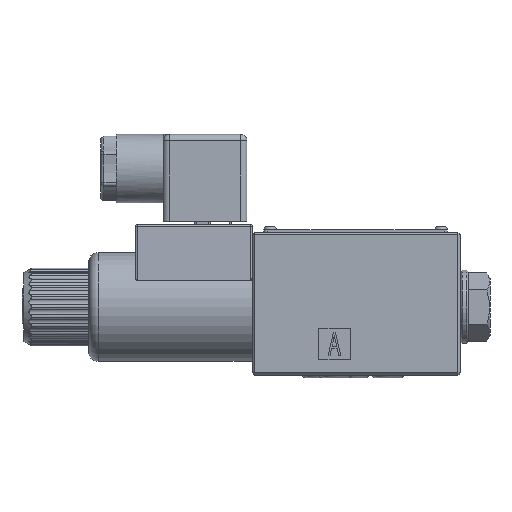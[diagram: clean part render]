
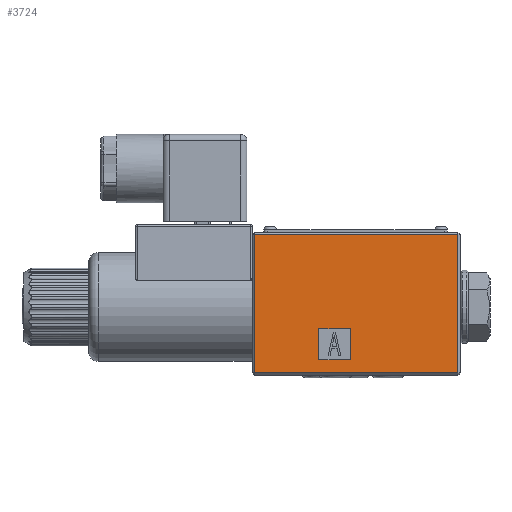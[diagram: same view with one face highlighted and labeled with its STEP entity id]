
A CAD part, front view. The second image highlights one B-rep face of the part: STEP entity #3724.
In plain terms, the highlighted planar face has unit normal (0, -1, 0).
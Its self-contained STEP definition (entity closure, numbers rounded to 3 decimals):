
#934=LINE('',#32446,#1490);
#935=LINE('',#32449,#1491);
#936=LINE('',#32451,#1492);
#937=LINE('',#32453,#1493);
#938=LINE('',#32454,#1494);
#939=LINE('',#32457,#1495);
#940=LINE('',#32459,#1496);
#941=LINE('',#32461,#1497);
#1490=VECTOR('',#12298,1.);
#1491=VECTOR('',#12299,1.);
#1492=VECTOR('',#12300,1.);
#1493=VECTOR('',#12301,1.);
#1494=VECTOR('',#12302,1.);
#1495=VECTOR('',#12303,1.);
#1496=VECTOR('',#12304,1.);
#1497=VECTOR('',#12305,1.);
#3724=ADVANCED_FACE('',(#4372,#4373),#4013,.F.);
#4013=PLANE('',#10320);
#4372=FACE_BOUND('',#4967,.T.);
#4373=FACE_BOUND('',#4968,.T.);
#4967=EDGE_LOOP('',(#6878,#6879,#6880,#6881));
#4968=EDGE_LOOP('',(#6882,#6883,#6884,#6885));
#6878=ORIENTED_EDGE('',*,*,#9061,.T.);
#6879=ORIENTED_EDGE('',*,*,#9062,.T.);
#6880=ORIENTED_EDGE('',*,*,#9063,.T.);
#6881=ORIENTED_EDGE('',*,*,#9064,.T.);
#6882=ORIENTED_EDGE('',*,*,#9065,.F.);
#6883=ORIENTED_EDGE('',*,*,#9066,.F.);
#6884=ORIENTED_EDGE('',*,*,#9067,.F.);
#6885=ORIENTED_EDGE('',*,*,#9068,.F.);
#8027=VERTEX_POINT('',#32447);
#8028=VERTEX_POINT('',#32448);
#8029=VERTEX_POINT('',#32450);
#8030=VERTEX_POINT('',#32452);
#8031=VERTEX_POINT('',#32455);
#8032=VERTEX_POINT('',#32456);
#8033=VERTEX_POINT('',#32458);
#8034=VERTEX_POINT('',#32460);
#9061=EDGE_CURVE('',#8027,#8028,#934,.T.);
#9062=EDGE_CURVE('',#8028,#8029,#935,.T.);
#9063=EDGE_CURVE('',#8029,#8030,#936,.T.);
#9064=EDGE_CURVE('',#8030,#8027,#937,.T.);
#9065=EDGE_CURVE('',#8031,#8032,#938,.T.);
#9066=EDGE_CURVE('',#8033,#8031,#939,.T.);
#9067=EDGE_CURVE('',#8034,#8033,#940,.T.);
#9068=EDGE_CURVE('',#8032,#8034,#941,.T.);
#10320=AXIS2_PLACEMENT_3D('',#32462,#12306,#12307);
#12298=DIRECTION('',(0.,0.,-1.));
#12299=DIRECTION('',(1.,0.,0.));
#12300=DIRECTION('',(0.,0.,1.));
#12301=DIRECTION('',(-1.,0.,0.));
#12302=DIRECTION('',(0.,0.,1.));
#12303=DIRECTION('',(1.,0.,0.));
#12304=DIRECTION('',(0.,0.,-1.));
#12305=DIRECTION('',(-1.,0.,0.));
#12306=DIRECTION('',(0.,1.,0.));
#12307=DIRECTION('',(1.,0.,0.));
#32446=CARTESIAN_POINT('',(-8.995,-25.581,1929.2));
#32447=CARTESIAN_POINT('',(-8.995,-25.581,1928.4));
#32448=CARTESIAN_POINT('',(-8.995,-25.581,1884.));
#32449=CARTESIAN_POINT('',(-9.795,-25.581,1884.));
#32450=CARTESIAN_POINT('',(56.405,-25.581,1884.));
#32451=CARTESIAN_POINT('',(56.405,-25.581,1929.2));
#32452=CARTESIAN_POINT('',(56.405,-25.581,1928.4));
#32453=CARTESIAN_POINT('',(-9.795,-25.581,1928.4));
#32454=CARTESIAN_POINT('',(21.705,-25.581,1888.2));
#32455=CARTESIAN_POINT('',(21.705,-25.581,1888.2));
#32456=CARTESIAN_POINT('',(21.705,-25.581,1898.2));
#32457=CARTESIAN_POINT('',(11.705,-25.581,1888.2));
#32458=CARTESIAN_POINT('',(11.705,-25.581,1888.2));
#32459=CARTESIAN_POINT('',(11.705,-25.581,1898.2));
#32460=CARTESIAN_POINT('',(11.705,-25.581,1898.2));
#32461=CARTESIAN_POINT('',(21.705,-25.581,1898.2));
#32462=CARTESIAN_POINT('',(-9.795,-25.581,1929.2));
